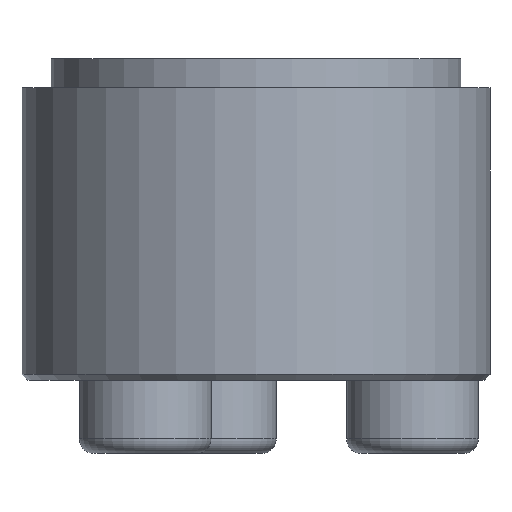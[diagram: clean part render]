
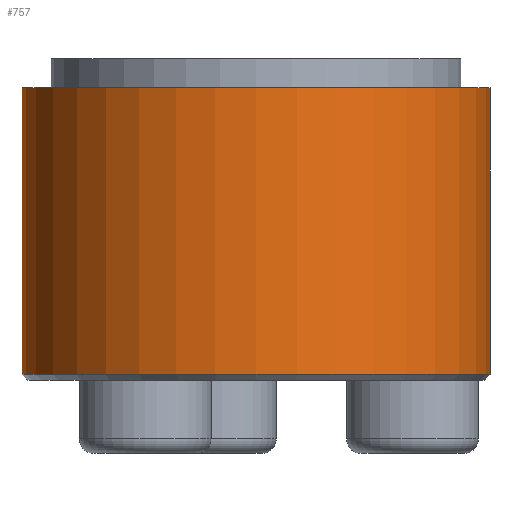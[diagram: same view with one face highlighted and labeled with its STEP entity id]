
A CAD part, front view. The second image highlights one B-rep face of the part: STEP entity #757.
In plain terms, the highlighted cylindrical face has radius 8 mm (diameter 16 mm), a partial arc.
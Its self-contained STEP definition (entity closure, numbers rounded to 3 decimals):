
#44 = EDGE_CURVE ( 'NONE', #1432, #222, #1339, .T. ) ;
#81 = AXIS2_PLACEMENT_3D ( 'NONE', #504, #616, #1400 ) ;
#149 = DIRECTION ( 'NONE',  ( 0., 0., -1. ) ) ;
#184 = DIRECTION ( 'NONE',  ( 0., 0., -1. ) ) ;
#222 = VERTEX_POINT ( 'NONE', #1079 ) ;
#235 = ORIENTED_EDGE ( 'NONE', *, *, #760, .T. ) ;
#279 = VERTEX_POINT ( 'NONE', #1288 ) ;
#289 = EDGE_CURVE ( 'NONE', #1014, #222, #1163, .T. ) ;
#290 = CARTESIAN_POINT ( 'NONE',  ( -8., 0., -5.3 ) ) ;
#296 = AXIS2_PLACEMENT_3D ( 'NONE', #306, #849, #392 ) ;
#298 = EDGE_LOOP ( 'NONE', ( #402, #1252, #235, #1287 ) ) ;
#306 = CARTESIAN_POINT ( 'NONE',  ( 0., 0., 0. ) ) ;
#390 = CARTESIAN_POINT ( 'NONE',  ( -8., 0., 0. ) ) ;
#392 = DIRECTION ( 'NONE',  ( -1., 0., 0. ) ) ;
#402 = ORIENTED_EDGE ( 'NONE', *, *, #289, .F. ) ;
#477 = VECTOR ( 'NONE', #184, 1000. ) ;
#504 = CARTESIAN_POINT ( 'NONE',  ( 0., 0., -5.3 ) ) ;
#514 = CARTESIAN_POINT ( 'NONE',  ( 8., 0., 0. ) ) ;
#573 = AXIS2_PLACEMENT_3D ( 'NONE', #709, #149, #833 ) ;
#616 = DIRECTION ( 'NONE',  ( 0., 0., 1. ) ) ;
#632 = EDGE_CURVE ( 'NONE', #1014, #279, #1011, .T. ) ;
#709 = CARTESIAN_POINT ( 'NONE',  ( 0., 0., 4.5 ) ) ;
#757 = ADVANCED_FACE ( 'NONE', ( #1042 ), #939, .T. ) ;
#760 = EDGE_CURVE ( 'NONE', #279, #1432, #782, .T. ) ;
#782 = LINE ( 'NONE', #390, #477 ) ;
#833 = DIRECTION ( 'NONE',  ( 1., 0., 0. ) ) ;
#843 = DIRECTION ( 'NONE',  ( 0., 0., -1. ) ) ;
#849 = DIRECTION ( 'NONE',  ( 0., 0., -1. ) ) ;
#902 = CARTESIAN_POINT ( 'NONE',  ( 8., 0., 4.5 ) ) ;
#939 = CYLINDRICAL_SURFACE ( 'NONE', #296, 8. ) ;
#1011 = CIRCLE ( 'NONE', #573, 8. ) ;
#1014 = VERTEX_POINT ( 'NONE', #902 ) ;
#1042 = FACE_OUTER_BOUND ( 'NONE', #298, .T. ) ;
#1079 = CARTESIAN_POINT ( 'NONE',  ( 8., 0., -5.3 ) ) ;
#1132 = VECTOR ( 'NONE', #843, 1000. ) ;
#1163 = LINE ( 'NONE', #514, #1132 ) ;
#1252 = ORIENTED_EDGE ( 'NONE', *, *, #632, .T. ) ;
#1287 = ORIENTED_EDGE ( 'NONE', *, *, #44, .T. ) ;
#1288 = CARTESIAN_POINT ( 'NONE',  ( -8., 0., 4.5 ) ) ;
#1339 = CIRCLE ( 'NONE', #81, 8. ) ;
#1400 = DIRECTION ( 'NONE',  ( -1., 0., 0. ) ) ;
#1432 = VERTEX_POINT ( 'NONE', #290 ) ;
